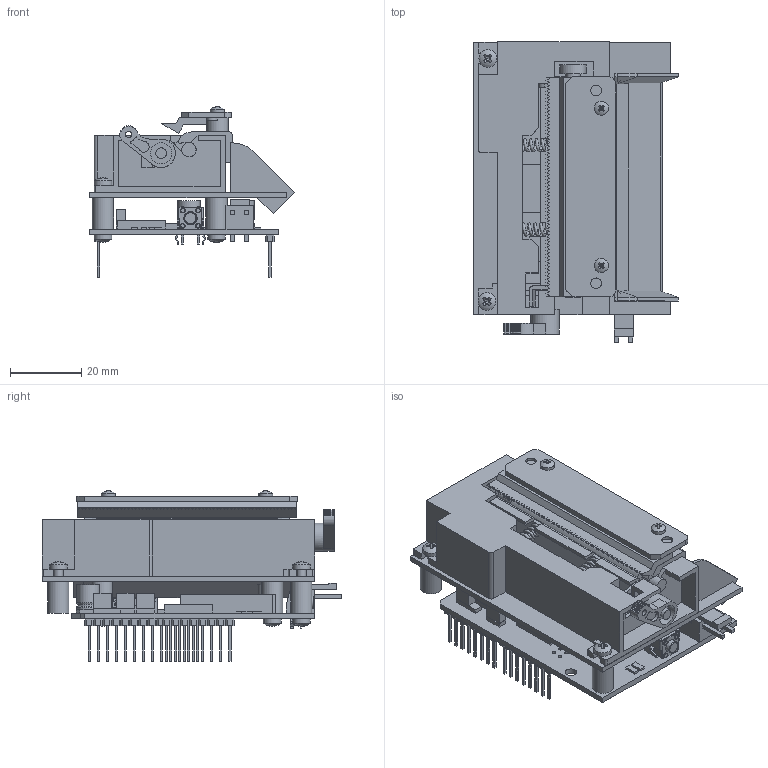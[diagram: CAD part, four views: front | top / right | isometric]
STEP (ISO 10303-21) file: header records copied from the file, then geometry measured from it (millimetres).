
FILE_DESCRIPTION(/* description */ (''),/* implementation_level */ '2;1');
FILE_NAME(/* name */ 'c:\worker\convert-fusion-aug-2018\tmp\job-1\100\output\files\c535022a-6c15-47b8-b9d5-5f921ead7847\385f6f6b-c2e5-4ae5-a09c-2cf43d56ee56.stp',/* time_stamp */ '2018-08-23T01:50:49+00:00',/* author */ (''),/* organization */ (''),/* preprocessor_version */ 'ST-DEVELOPER v17.2',/* originating_system */ 'Autodesk Translation Framework v7.6.0.251',/* authorisation */ '');
FILE_SCHEMA (('AUTOMOTIVE_DESIGN { 1 0 10303 214 3 1 1 }'));
Products named in the file (14): AS-289R2 ASSY; AS-289R2; M2; M2 (1); M2 (2); M2 (3); M2 (4); M2 (5); M2 (6); 基板; ペーパーガイド補助板; Printer ASSY v2; Pepercutter Aset; Unit
Assembly tree (13 placements, depth 4):
  AS-289R2 ASSY
    AS-289R2
      M2
      M2 (1)
      M2 (2)
      M2 (3)
      M2 (4)
      M2 (5)
      M2 (6)
      基板
      ペーパーガイド補助板
      Printer ASSY v2
      Pepercutter Aset
        Unit
Bounding box: 57.7 x 84.5 x 47.97 mm (x, y, z)
Volume: 50419.5 mm3; surface area: 41446.9 mm2
Topology: 14 solids, 18 shells, 1655 faces, 4397 edges, 2867 vertices
Faces by surface type: plane 1318, cylinder 225, cone 75, torus 22, sphere 9, bspline 6
Full cylindrical faces by diameter (mm): 0.9 x4, 0.95 x4, 1 x6, 1.35 x4, 1.4 x1, 1.7 x1, 2 x9, 2.2 x2, 2.497 x1, 2.5 x9, 2.8 x2, 3 x4, 3.2 x9, 3.5 x1, 3.8 x1, 4 x5, 5 x7, 5.4 x2, 5.9 x2, 6 x7, 6.3 x4, 7.5 x1, 8 x1
Entity records: 59453 total; most frequent: CARTESIAN_POINT 16290, ORIENTED_EDGE 8776, DIRECTION 8320, EDGE_CURVE 4388, LINE 3266, VECTOR 3266, VERTEX_POINT 2867, AXIS2_PLACEMENT_3D 2527
